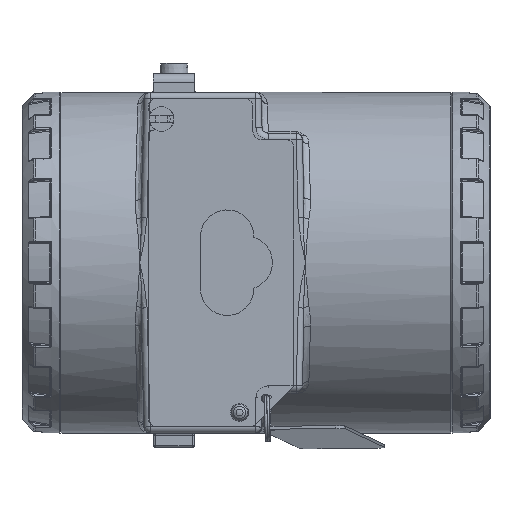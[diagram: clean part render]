
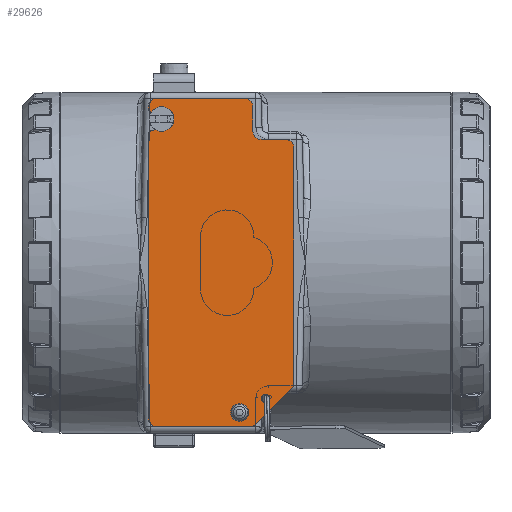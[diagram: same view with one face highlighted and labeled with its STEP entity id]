
A CAD part, left-side view. The second image highlights one B-rep face of the part: STEP entity #29626.
In plain terms, the highlighted planar face has unit normal (-1, 0, 0) as drawn and (0, 0, 1) by its records, which use the part's own axes.
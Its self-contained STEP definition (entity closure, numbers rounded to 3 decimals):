
#2743=FACE_BOUND('',#8753,.T.);
#2744=FACE_BOUND('',#8754,.T.);
#2968=PLANE('',#32802);
#3810=LINE('',#56201,#4954);
#3817=LINE('',#56232,#4961);
#3829=LINE('',#56273,#4973);
#3833=LINE('',#56283,#4977);
#3836=LINE('',#56291,#4980);
#3838=LINE('',#56297,#4982);
#3841=LINE('',#56305,#4985);
#3843=LINE('',#56311,#4987);
#3845=LINE('',#56318,#4989);
#3847=LINE('',#56323,#4991);
#4954=VECTOR('',#38802,10.);
#4961=VECTOR('',#38833,10.);
#4973=VECTOR('',#38869,10.);
#4977=VECTOR('',#38879,10.);
#4980=VECTOR('',#38888,10.);
#4982=VECTOR('',#38896,10.);
#4985=VECTOR('',#38905,10.);
#4987=VECTOR('',#38913,10.);
#4989=VECTOR('',#38921,10.);
#4991=VECTOR('',#38929,10.);
#6758=FACE_OUTER_BOUND('',#8752,.T.);
#8752=EDGE_LOOP('',(#23811,#23812,#23813,#23814,#23815,#23816,#23817,#23818,
#23819,#23820,#23821,#23822,#23823,#23824,#23825,#23826,#23827,#23828,#23829,
#23830));
#8753=EDGE_LOOP('',(#23831,#23832));
#8754=EDGE_LOOP('',(#23833,#23834));
#10734=CIRCLE('',#32755,2.);
#10735=CIRCLE('',#32758,1.);
#10736=CIRCLE('',#32759,1.);
#10738=CIRCLE('',#32762,1.35);
#10739=CIRCLE('',#32763,1.35);
#10741=CIRCLE('',#32766,1.);
#10751=CIRCLE('',#32779,1.);
#10752=CIRCLE('',#32782,2.);
#10753=CIRCLE('',#32785,2.);
#10754=CIRCLE('',#32788,2.);
#10755=CIRCLE('',#32791,2.);
#10756=CIRCLE('',#32794,2.);
#10757=CIRCLE('',#32797,2.);
#10758=CIRCLE('',#32800,2.1);
#13343=VERTEX_POINT('',#56191);
#13344=VERTEX_POINT('',#56193);
#13346=VERTEX_POINT('',#56199);
#13347=VERTEX_POINT('',#56203);
#13348=VERTEX_POINT('',#56204);
#13350=VERTEX_POINT('',#56211);
#13351=VERTEX_POINT('',#56212);
#13353=VERTEX_POINT('',#56219);
#13354=VERTEX_POINT('',#56220);
#13358=VERTEX_POINT('',#56230);
#13373=VERTEX_POINT('',#56265);
#13374=VERTEX_POINT('',#56266);
#13375=VERTEX_POINT('',#56271);
#13376=VERTEX_POINT('',#56275);
#13377=VERTEX_POINT('',#56276);
#13378=VERTEX_POINT('',#56281);
#13379=VERTEX_POINT('',#56285);
#13380=VERTEX_POINT('',#56289);
#13381=VERTEX_POINT('',#56293);
#13382=VERTEX_POINT('',#56299);
#13383=VERTEX_POINT('',#56303);
#13384=VERTEX_POINT('',#56307);
#13385=VERTEX_POINT('',#56313);
#13386=VERTEX_POINT('',#56317);
#16927=EDGE_CURVE('',#13343,#13344,#10734,.T.);
#16931=EDGE_CURVE('',#13346,#13343,#3810,.T.);
#16932=EDGE_CURVE('',#13347,#13348,#10735,.T.);
#16933=EDGE_CURVE('',#13348,#13347,#10736,.T.);
#16936=EDGE_CURVE('',#13350,#13351,#10738,.T.);
#16937=EDGE_CURVE('',#13351,#13350,#10739,.T.);
#16940=EDGE_CURVE('',#13353,#13354,#10741,.T.);
#16946=EDGE_CURVE('',#13358,#13353,#3817,.T.);
#16963=EDGE_CURVE('',#13373,#13374,#10751,.T.);
#16967=EDGE_CURVE('',#13375,#13373,#3829,.T.);
#16968=EDGE_CURVE('',#13376,#13377,#10752,.T.);
#16972=EDGE_CURVE('',#13378,#13376,#3833,.T.);
#16973=EDGE_CURVE('',#13379,#13378,#10753,.T.);
#16976=EDGE_CURVE('',#13380,#13379,#3836,.T.);
#16977=EDGE_CURVE('',#13381,#13380,#10754,.T.);
#16979=EDGE_CURVE('',#13344,#13381,#3838,.T.);
#16980=EDGE_CURVE('',#13382,#13346,#10755,.T.);
#16983=EDGE_CURVE('',#13383,#13382,#3841,.T.);
#16984=EDGE_CURVE('',#13384,#13383,#10756,.T.);
#16986=EDGE_CURVE('',#13354,#13384,#3843,.T.);
#16987=EDGE_CURVE('',#13385,#13375,#10757,.T.);
#16989=EDGE_CURVE('',#13374,#13386,#3845,.T.);
#16991=EDGE_CURVE('',#13386,#13358,#10758,.T.);
#16992=EDGE_CURVE('',#13377,#13385,#3847,.T.);
#23811=ORIENTED_EDGE('',*,*,#16940,.F.);
#23812=ORIENTED_EDGE('',*,*,#16946,.F.);
#23813=ORIENTED_EDGE('',*,*,#16991,.F.);
#23814=ORIENTED_EDGE('',*,*,#16989,.F.);
#23815=ORIENTED_EDGE('',*,*,#16963,.F.);
#23816=ORIENTED_EDGE('',*,*,#16967,.F.);
#23817=ORIENTED_EDGE('',*,*,#16987,.F.);
#23818=ORIENTED_EDGE('',*,*,#16992,.F.);
#23819=ORIENTED_EDGE('',*,*,#16968,.F.);
#23820=ORIENTED_EDGE('',*,*,#16972,.F.);
#23821=ORIENTED_EDGE('',*,*,#16973,.F.);
#23822=ORIENTED_EDGE('',*,*,#16976,.F.);
#23823=ORIENTED_EDGE('',*,*,#16977,.F.);
#23824=ORIENTED_EDGE('',*,*,#16979,.F.);
#23825=ORIENTED_EDGE('',*,*,#16927,.F.);
#23826=ORIENTED_EDGE('',*,*,#16931,.F.);
#23827=ORIENTED_EDGE('',*,*,#16980,.F.);
#23828=ORIENTED_EDGE('',*,*,#16983,.F.);
#23829=ORIENTED_EDGE('',*,*,#16984,.F.);
#23830=ORIENTED_EDGE('',*,*,#16986,.F.);
#23831=ORIENTED_EDGE('',*,*,#16932,.T.);
#23832=ORIENTED_EDGE('',*,*,#16933,.T.);
#23833=ORIENTED_EDGE('',*,*,#16936,.T.);
#23834=ORIENTED_EDGE('',*,*,#16937,.T.);
#29626=ADVANCED_FACE('',(#6758,#2743,#2744),#2968,.T.);
#32755=AXIS2_PLACEMENT_3D('',#56194,#38795,#38796);
#32758=AXIS2_PLACEMENT_3D('',#56205,#38805,#38806);
#32759=AXIS2_PLACEMENT_3D('',#56206,#38807,#38808);
#32762=AXIS2_PLACEMENT_3D('',#56213,#38814,#38815);
#32763=AXIS2_PLACEMENT_3D('',#56214,#38816,#38817);
#32766=AXIS2_PLACEMENT_3D('',#56221,#38823,#38824);
#32779=AXIS2_PLACEMENT_3D('',#56267,#38862,#38863);
#32782=AXIS2_PLACEMENT_3D('',#56277,#38872,#38873);
#32785=AXIS2_PLACEMENT_3D('',#56286,#38882,#38883);
#32788=AXIS2_PLACEMENT_3D('',#56294,#38891,#38892);
#32791=AXIS2_PLACEMENT_3D('',#56300,#38899,#38900);
#32794=AXIS2_PLACEMENT_3D('',#56308,#38908,#38909);
#32797=AXIS2_PLACEMENT_3D('',#56314,#38916,#38917);
#32800=AXIS2_PLACEMENT_3D('',#56321,#38925,#38926);
#32802=AXIS2_PLACEMENT_3D('',#56324,#38930,#38931);
#38795=DIRECTION('center_axis',(0.,0.,1.));
#38796=DIRECTION('ref_axis',(-0.707,0.707,0.));
#38802=DIRECTION('',(-1.,0.,0.));
#38805=DIRECTION('center_axis',(0.,0.,-1.));
#38806=DIRECTION('ref_axis',(1.,0.,0.));
#38807=DIRECTION('center_axis',(0.,0.,-1.));
#38808=DIRECTION('ref_axis',(1.,0.,0.));
#38814=DIRECTION('center_axis',(0.,0.,-1.));
#38815=DIRECTION('ref_axis',(1.,0.,0.));
#38816=DIRECTION('center_axis',(0.,0.,-1.));
#38817=DIRECTION('ref_axis',(1.,0.,0.));
#38823=DIRECTION('center_axis',(0.,0.,-1.));
#38824=DIRECTION('ref_axis',(-0.793,0.609,0.));
#38833=DIRECTION('',(-0.259,0.966,0.));
#38862=DIRECTION('center_axis',(0.,0.,-1.));
#38863=DIRECTION('ref_axis',(0.609,0.793,0.));
#38869=DIRECTION('',(1.,0.,0.));
#38872=DIRECTION('center_axis',(0.,0.,-1.));
#38873=DIRECTION('ref_axis',(-0.924,-0.383,0.));
#38879=DIRECTION('',(-0.707,0.707,0.));
#38882=DIRECTION('center_axis',(0.,0.,-1.));
#38883=DIRECTION('ref_axis',(-0.383,-0.924,0.));
#38888=DIRECTION('',(-1.,0.,0.));
#38891=DIRECTION('center_axis',(0.,0.,-1.));
#38892=DIRECTION('ref_axis',(0.707,-0.707,0.));
#38896=DIRECTION('',(0.,-1.,0.));
#38899=DIRECTION('center_axis',(0.,0.,-1.));
#38900=DIRECTION('ref_axis',(0.707,-0.707,0.));
#38905=DIRECTION('',(0.,-1.,0.));
#38908=DIRECTION('center_axis',(0.,0.,-1.));
#38909=DIRECTION('ref_axis',(0.707,0.707,0.));
#38913=DIRECTION('',(1.,0.,0.));
#38916=DIRECTION('center_axis',(0.,0.,-1.));
#38917=DIRECTION('ref_axis',(-0.707,0.707,0.));
#38921=DIRECTION('',(0.259,-0.966,0.));
#38925=DIRECTION('center_axis',(0.,0.,1.));
#38926=DIRECTION('ref_axis',(-0.966,-0.259,0.));
#38929=DIRECTION('',(0.,1.,0.));
#38930=DIRECTION('center_axis',(0.,0.,1.));
#38931=DIRECTION('ref_axis',(1.,0.,0.));
#56191=CARTESIAN_POINT('',(32.,-7.75,0.7));
#56193=CARTESIAN_POINT('',(30.,-9.75,0.7));
#56194=CARTESIAN_POINT('Origin',(32.,-9.75,0.7));
#56199=CARTESIAN_POINT('',(38.,-7.75,0.7));
#56201=CARTESIAN_POINT('',(40.,-7.75,0.7));
#56203=CARTESIAN_POINT('',(-32.,-10.75,0.7));
#56204=CARTESIAN_POINT('',(-34.,-10.75,0.7));
#56205=CARTESIAN_POINT('Origin',(-33.,-10.75,0.7));
#56206=CARTESIAN_POINT('Origin',(-33.,-10.75,0.7));
#56211=CARTESIAN_POINT('',(-35.15,-4.5,0.7));
#56212=CARTESIAN_POINT('',(-37.85,-4.5,0.7));
#56213=CARTESIAN_POINT('Origin',(-36.5,-4.5,0.7));
#56214=CARTESIAN_POINT('Origin',(-36.5,-4.5,0.7));
#56219=CARTESIAN_POINT('',(36.641,16.491,0.7));
#56220=CARTESIAN_POINT('',(37.606,17.75,0.7));
#56221=CARTESIAN_POINT('Origin',(37.606,16.75,0.7));
#56230=CARTESIAN_POINT('',(37.028,15.044,0.7));
#56232=CARTESIAN_POINT('',(37.028,15.044,0.7));
#56265=CARTESIAN_POINT('',(31.188,17.75,0.7));
#56266=CARTESIAN_POINT('',(32.154,17.009,0.7));
#56267=CARTESIAN_POINT('Origin',(31.188,16.75,0.7));
#56271=CARTESIAN_POINT('',(-38.,17.75,0.7));
#56273=CARTESIAN_POINT('',(-40.,17.75,0.7));
#56275=CARTESIAN_POINT('',(-39.414,-8.336,0.7));
#56276=CARTESIAN_POINT('',(-40.,-6.922,0.7));
#56277=CARTESIAN_POINT('Origin',(-38.,-6.922,0.7));
#56281=CARTESIAN_POINT('',(-30.586,-17.164,0.7));
#56283=CARTESIAN_POINT('',(-30.,-17.75,0.7));
#56285=CARTESIAN_POINT('',(-29.172,-17.75,0.7));
#56286=CARTESIAN_POINT('Origin',(-29.172,-15.75,0.7));
#56289=CARTESIAN_POINT('',(28.,-17.75,0.7));
#56291=CARTESIAN_POINT('',(30.,-17.75,0.7));
#56293=CARTESIAN_POINT('',(30.,-15.75,0.7));
#56294=CARTESIAN_POINT('Origin',(28.,-15.75,0.7));
#56297=CARTESIAN_POINT('',(30.,-7.75,0.7));
#56299=CARTESIAN_POINT('',(40.,-5.75,0.7));
#56300=CARTESIAN_POINT('Origin',(38.,-5.75,0.7));
#56303=CARTESIAN_POINT('',(40.,15.75,0.7));
#56305=CARTESIAN_POINT('',(40.,17.75,0.7));
#56307=CARTESIAN_POINT('',(38.,17.75,0.7));
#56308=CARTESIAN_POINT('Origin',(38.,15.75,0.7));
#56311=CARTESIAN_POINT('',(36.303,17.75,0.7));
#56313=CARTESIAN_POINT('',(-40.,15.75,0.7));
#56314=CARTESIAN_POINT('Origin',(-38.,15.75,0.7));
#56317=CARTESIAN_POINT('',(32.972,13.956,0.7));
#56318=CARTESIAN_POINT('',(31.955,17.75,0.7));
#56321=CARTESIAN_POINT('Origin',(35.,14.5,0.7));
#56323=CARTESIAN_POINT('',(-40.,-7.75,0.7));
#56324=CARTESIAN_POINT('Origin',(2.007,1.468,0.7));
